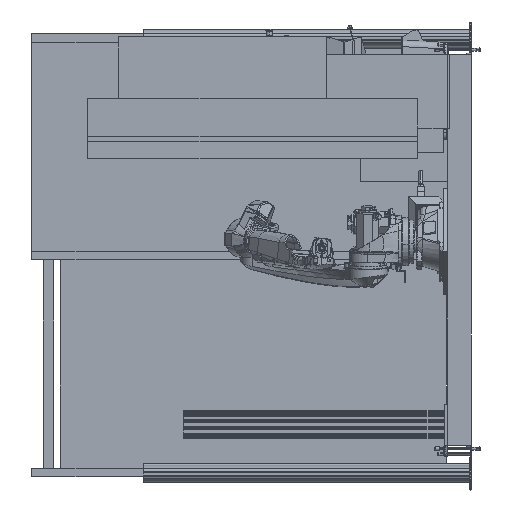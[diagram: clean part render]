
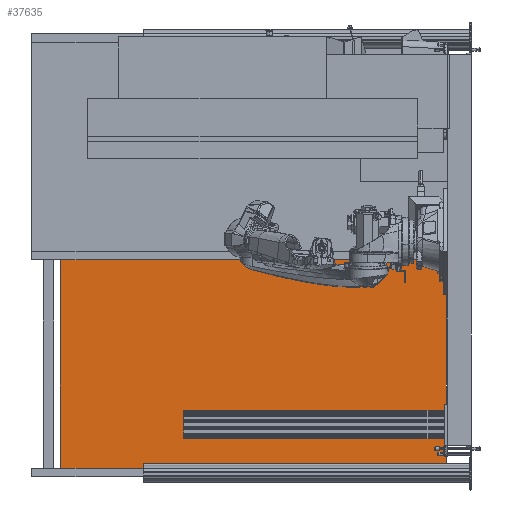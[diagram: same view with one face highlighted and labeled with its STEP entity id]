
A CAD part, left-side view. The second image highlights one B-rep face of the part: STEP entity #37635.
In plain terms, the highlighted planar face has unit normal (-1, 0, 0).
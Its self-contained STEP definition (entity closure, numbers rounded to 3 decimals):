
#121 = VECTOR ( 'NONE', #251712, 39.37 ) ;
#3977 = VECTOR ( 'NONE', #154181, 39.37 ) ;
#35037 = EDGE_CURVE ( 'NONE', #144370, #269287, #64753, .T. ) ;
#37635 = ADVANCED_FACE ( 'NONE', ( #248269 ), #99529, .T. ) ;
#51776 = CARTESIAN_POINT ( 'NONE',  ( 72.425, 94.75, -22.812 ) ) ;
#54231 = DIRECTION ( 'NONE',  ( -1., 0., 0. ) ) ;
#60856 = ORIENTED_EDGE ( 'NONE', *, *, #128752, .T. ) ;
#64753 = LINE ( 'NONE', #151177, #79636 ) ;
#67778 = LINE ( 'NONE', #155558, #3977 ) ;
#78277 = CARTESIAN_POINT ( 'NONE',  ( 72.425, 74., -47.812 ) ) ;
#79636 = VECTOR ( 'NONE', #260167, 39.37 ) ;
#85881 = ORIENTED_EDGE ( 'NONE', *, *, #102147, .T. ) ;
#94817 = EDGE_CURVE ( 'NONE', #119938, #269287, #207876, .T. ) ;
#95673 = DIRECTION ( 'NONE',  ( 0., 0., -1. ) ) ;
#97012 = CARTESIAN_POINT ( 'NONE',  ( 72.425, 5.75, -22.812 ) ) ;
#97406 = VECTOR ( 'NONE', #95673, 39.37 ) ;
#99529 = PLANE ( 'NONE',  #143736 ) ;
#102147 = EDGE_CURVE ( 'NONE', #158732, #144370, #245826, .T. ) ;
#115114 = EDGE_LOOP ( 'NONE', ( #60856, #85881, #272667, #205818 ) ) ;
#119938 = VERTEX_POINT ( 'NONE', #97012 ) ;
#128752 = EDGE_CURVE ( 'NONE', #119938, #158732, #67778, .T. ) ;
#143736 = AXIS2_PLACEMENT_3D ( 'NONE', #78277, #54231, #164673 ) ;
#144370 = VERTEX_POINT ( 'NONE', #158958 ) ;
#151177 = CARTESIAN_POINT ( 'NONE',  ( 72.425, 94.75, -72.812 ) ) ;
#154181 = DIRECTION ( 'NONE',  ( 0., 1., 0. ) ) ;
#155558 = CARTESIAN_POINT ( 'NONE',  ( 72.425, 53.25, -22.812 ) ) ;
#158732 = VERTEX_POINT ( 'NONE', #164683 ) ;
#158958 = CARTESIAN_POINT ( 'NONE',  ( 72.425, 94.75, -72.812 ) ) ;
#164673 = DIRECTION ( 'NONE',  ( 0., 0., 1. ) ) ;
#164683 = CARTESIAN_POINT ( 'NONE',  ( 72.425, 94.75, -22.812 ) ) ;
#165337 = CARTESIAN_POINT ( 'NONE',  ( 72.425, 5.75, -22.812 ) ) ;
#205818 = ORIENTED_EDGE ( 'NONE', *, *, #94817, .F. ) ;
#207876 = LINE ( 'NONE', #165337, #121 ) ;
#224752 = CARTESIAN_POINT ( 'NONE',  ( 72.425, 5.75, -72.812 ) ) ;
#245826 = LINE ( 'NONE', #51776, #97406 ) ;
#248269 = FACE_OUTER_BOUND ( 'NONE', #115114, .T. ) ;
#251712 = DIRECTION ( 'NONE',  ( 0., 0., -1. ) ) ;
#260167 = DIRECTION ( 'NONE',  ( 0., -1., 0. ) ) ;
#269287 = VERTEX_POINT ( 'NONE', #224752 ) ;
#272667 = ORIENTED_EDGE ( 'NONE', *, *, #35037, .T. ) ;
